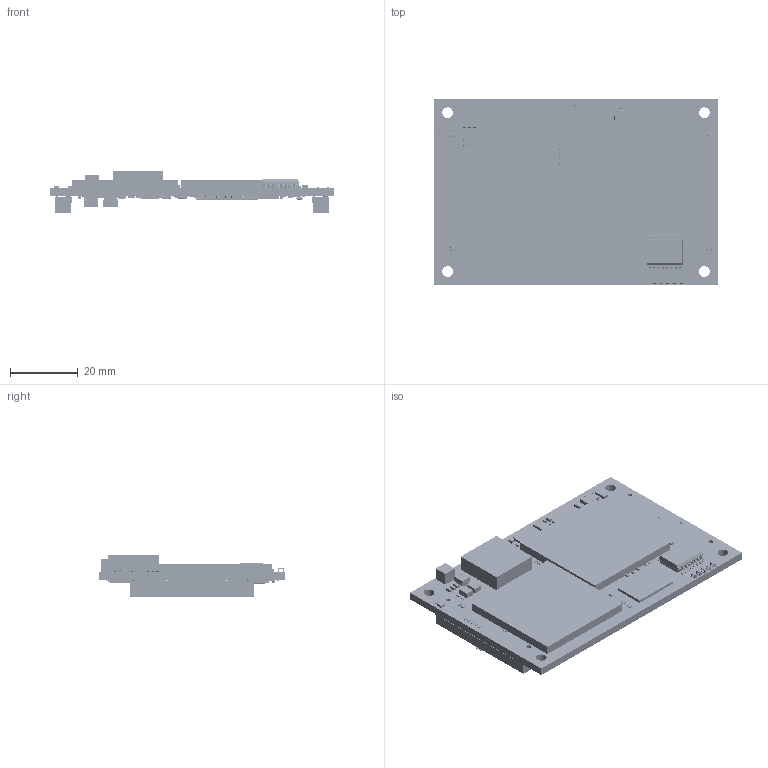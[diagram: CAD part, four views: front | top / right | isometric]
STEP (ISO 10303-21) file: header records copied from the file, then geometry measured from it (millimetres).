
FILE_DESCRIPTION(/* description */ ('PCB Design'),/* implementation_level */ '2;1');
FILE_NAME(/* name */ '7133160-1_EPSM-10GX4 _PCB_111419-3D',/* time_stamp */ '2020-04-13T12:18:59+06:00',/* author */ (''),/* organization */ (''),/* preprocessor_version */ 'ST-DEVELOPER v16',/* originating_system */ 'allegro_17.2S058',/* authorisation */ '');
FILE_SCHEMA (('AUTOMOTIVE_DESIGN { 1 0 10303 214 3 1 1 }'));
Length unit declared in the file: millimetre
Products named in the file (52): 7133160-1_EPSM-10GX4 _PCB_111419-DXF; BOARD_OUTLINE; COMPONENTS; TP_40X67; QFN_18_MPM3830; VSSOP-8; SOIC_W_H2_65_P16; DFN3X3_H0_70-10; CAP_0603-HT0_9_IR; CAP_0603-H0_9; RES0402; RES_0402; CAP_0402; CAP1210; TSOP12X18-48; CAP_TANTB; SOT143-48M; OSC_5X3_33M; MH250X125GND_DS; CON_SAM-ERF5-060-05P0-L-DV; BGA80P9X16-96; HDR2X2-2MM; TP_HOLE_D90MM; C7343-X; 0603_PIN_SHORTED; FID_40C; BGA127P12X12-133; BGA27X27-672-102M; CAP0805; XTAL2_5X2_0-HT0_9_P4; TP30T; IND_0603-HT0_9; LED1_6SQ-HT0_7_P4; C-1625854-3; MPM3606; product; CCS_CCSTD_0603_L1.75W0.95T0.87B0.35; Document; CCS_CCSTD_0402_L1.05W0.55T0.55B0.3; CCS_STD_1210_L3.4W2.7T1.7B0.75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
Assembly tree (511 placements, depth 5):
  7133160-1_EPSM-10GX4 _PCB_111419-DXF
    BOARD_OUTLINE
    COMPONENTS
      TP_40X67  x5
        C-1625854-3
      QFN_18_MPM3830
        MPM3606
      VSSOP-8
        product
      SOIC_W_H2_65_P16
        product
      DFN3X3_H0_70-10  x3
      CAP_0603-HT0_9_IR  x11
        CCS_CCSTD_0603_L1.75W0.95T0.87B0.35
      CAP_0603-H0_9  x25
        CCS_CCSTD_0603_L1.75W0.95T0.87B0.35
      RES0402  x4
        Document
      RES_0402  x127
        Document
      CAP_0402  x230
        CCS_CCSTD_0402_L1.05W0.55T0.55B0.3
      CAP1210  x2
        CCS_STD_1210_L3.4W2.7T1.7B0.75
      TSOP12X18-48
        product
      CAP_TANTB
        product
      SOT143-48M
        product
      OSC_5X3_33M  x2
        ASFLMB
      MH250X125GND_DS  x4
      CON_SAM-ERF5-060-05P0-L-DV  x2
        ERF5-060-05.0-L-DV-K-TR
          _ERF5-060-05.0-DV_socket
          _C-247-060-05.0
          _K-DOT-.236-.343-.005_polyamide_pick
      BGA80P9X16-96
        User Library-96-FBGA (14X9)
      HDR2X2-2MM
      TP_HOLE_D90MM
      C7343-X  x2
        product
      0603_PIN_SHORTED
      FID_40C  x15
      BGA127P12X12-133
        product
      BGA27X27-672-102M  x2
      CAP0805  x3
      XTAL2_5X2_0-HT0_9_P4
      TP30T  x30
      IND_0603-HT0_9  x8
      LED1_6SQ-HT0_7_P4
Bounding box: 84 x 55.06 x 12.54 mm (x, y, z)
Volume: 1313 mm3; surface area: 23798.2 mm2
Topology: 1683 solids, 8712 shells, 51440 faces, 132152 edges, 86748 vertices
Faces by surface type: plane 34027, cylinder 11524, sphere 4480, bspline 1403, torus 6
Full cylindrical faces by diameter (mm): 0.119 x1, 0.152 x1, 0.38 x1, 0.925 x1, 1.32 x2, 6 x2
Entity records: 431653 total; most frequent: CARTESIAN_POINT 82348, DIRECTION 61215, ORIENTED_EDGE 48726, EDGE_CURVE 34836, VECTOR 32529, LINE 32529, VERTEX_POINT 31117, AXIS2_PLACEMENT_3D 15004
